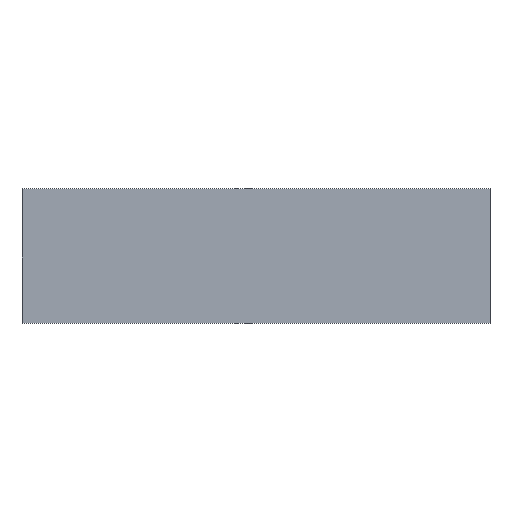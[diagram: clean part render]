
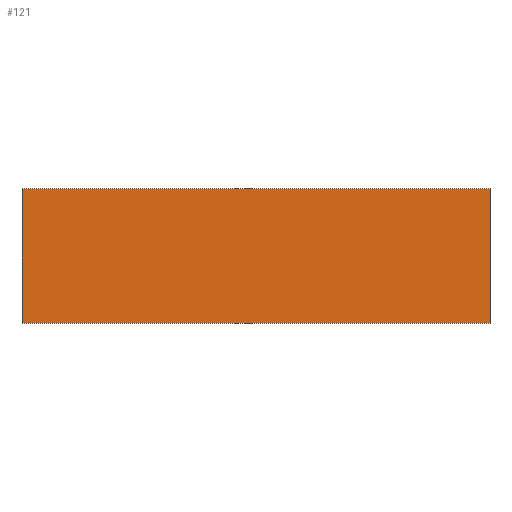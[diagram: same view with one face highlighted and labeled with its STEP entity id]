
A CAD part, top view. The second image highlights one B-rep face of the part: STEP entity #121.
In plain terms, the highlighted planar face has unit normal (0, 0, 1).
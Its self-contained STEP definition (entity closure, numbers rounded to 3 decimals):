
#7 = LINE ( 'NONE', #10, #209 ) ;
#10 = CARTESIAN_POINT ( 'NONE',  ( 0., 1800., 0. ) ) ;
#14 = CARTESIAN_POINT ( 'NONE',  ( 0., 0., 0. ) ) ;
#16 = ORIENTED_EDGE ( 'NONE', *, *, #83, .T. ) ;
#28 = LINE ( 'NONE', #104, #119 ) ;
#32 = VERTEX_POINT ( 'NONE', #66 ) ;
#41 = CARTESIAN_POINT ( 'NONE',  ( 0., 0., 0. ) ) ;
#46 = ORIENTED_EDGE ( 'NONE', *, *, #67, .T. ) ;
#50 = EDGE_CURVE ( 'NONE', #32, #117, #176, .T. ) ;
#66 = CARTESIAN_POINT ( 'NONE',  ( -6260., 1800., 0. ) ) ;
#67 = EDGE_CURVE ( 'NONE', #102, #32, #7, .T. ) ;
#82 = DIRECTION ( 'NONE',  ( -1., 0., 0. ) ) ;
#83 = EDGE_CURVE ( 'NONE', #117, #235, #28, .T. ) ;
#86 = FACE_OUTER_BOUND ( 'NONE', #214, .T. ) ;
#88 = CARTESIAN_POINT ( 'NONE',  ( -6260., 0., 0. ) ) ;
#90 = DIRECTION ( 'NONE',  ( 0., 0., 1. ) ) ;
#102 = VERTEX_POINT ( 'NONE', #217 ) ;
#104 = CARTESIAN_POINT ( 'NONE',  ( 0., 0., 0. ) ) ;
#117 = VERTEX_POINT ( 'NONE', #88 ) ;
#119 = VECTOR ( 'NONE', #180, 1000. ) ;
#121 = ADVANCED_FACE ( 'NONE', ( #86 ), #131, .T. ) ;
#126 = DIRECTION ( 'NONE',  ( 0., -1., 0. ) ) ;
#129 = VECTOR ( 'NONE', #152, 1000. ) ;
#131 = PLANE ( 'NONE',  #236 ) ;
#149 = ORIENTED_EDGE ( 'NONE', *, *, #197, .T. ) ;
#152 = DIRECTION ( 'NONE',  ( 0., 1., 0. ) ) ;
#159 = CARTESIAN_POINT ( 'NONE',  ( 0., 0., 0. ) ) ;
#164 = VECTOR ( 'NONE', #126, 1000. ) ;
#167 = DIRECTION ( 'NONE',  ( 1., 0., 0. ) ) ;
#170 = ORIENTED_EDGE ( 'NONE', *, *, #50, .T. ) ;
#176 = LINE ( 'NONE', #184, #164 ) ;
#180 = DIRECTION ( 'NONE',  ( 1., 0., 0. ) ) ;
#184 = CARTESIAN_POINT ( 'NONE',  ( -6260., 0., 0. ) ) ;
#197 = EDGE_CURVE ( 'NONE', #235, #102, #225, .T. ) ;
#209 = VECTOR ( 'NONE', #82, 1000. ) ;
#214 = EDGE_LOOP ( 'NONE', ( #149, #46, #170, #16 ) ) ;
#217 = CARTESIAN_POINT ( 'NONE',  ( 0., 1800., 0. ) ) ;
#225 = LINE ( 'NONE', #41, #129 ) ;
#235 = VERTEX_POINT ( 'NONE', #159 ) ;
#236 = AXIS2_PLACEMENT_3D ( 'NONE', #14, #90, #167 ) ;
